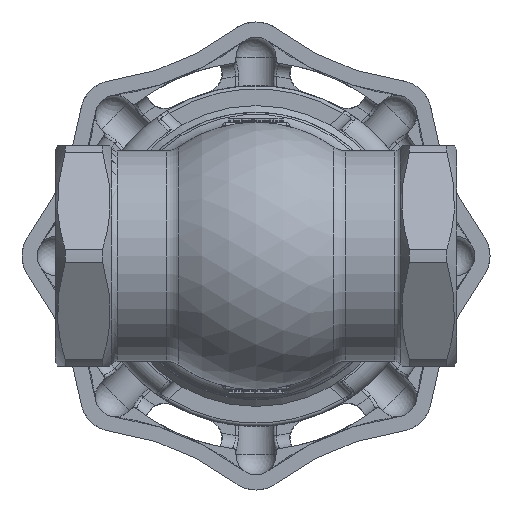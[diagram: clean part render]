
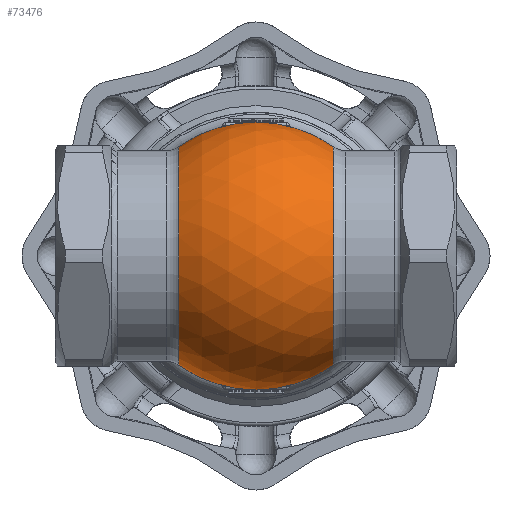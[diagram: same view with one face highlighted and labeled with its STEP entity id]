
A CAD part, front view. The second image highlights one B-rep face of the part: STEP entity #73476.
In plain terms, the highlighted spherical face has radius 20 mm.
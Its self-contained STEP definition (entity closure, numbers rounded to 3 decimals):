
#72012=CARTESIAN_POINT('',(65.232,39.3,-74.128));
#72013=VERTEX_POINT('',#72012);
#72552=CARTESIAN_POINT('',(42.066,39.3,-74.128));
#72553=VERTEX_POINT('',#72552);
#72650=CARTESIAN_POINT('',(42.067,39.3,-41.519));
#72651=VERTEX_POINT('',#72650);
#72652=CARTESIAN_POINT('',(42.066,39.3,-57.823));
#72653=DIRECTION('',(-1.,0.0,0.));
#72654=DIRECTION('',(0.,0.0,-1.));
#72655=AXIS2_PLACEMENT_3D('',#72652,#72653,#72654);
#72656=CIRCLE('',#72655,16.304);
#72657=EDGE_CURVE('',#72553,#72651,#72656,.T.);
#73235=CARTESIAN_POINT('',(65.233,39.3,-41.519));
#73236=VERTEX_POINT('',#73235);
#73384=CARTESIAN_POINT('',(53.649,39.3,-57.823));
#73385=DIRECTION('',(0.0,-1.0,0.0));
#73386=DIRECTION('',(-0.579,0.0,-0.815));
#73387=AXIS2_PLACEMENT_3D('',#73384,#73385,#73386);
#73388=CIRCLE('',#73387,20.0);
#73389=EDGE_CURVE('',#72553,#72013,#73388,.T.);
#73422=CARTESIAN_POINT('',(53.649,39.3,-57.823));
#73423=DIRECTION('',(0.0,1.0,0.0));
#73424=DIRECTION('',(-0.579,0.0,0.815));
#73425=AXIS2_PLACEMENT_3D('',#73422,#73423,#73424);
#73426=CIRCLE('',#73425,20.);
#73427=EDGE_CURVE('',#72651,#73236,#73426,.T.);
#73452=CARTESIAN_POINT('',(65.233,39.3,-57.824));
#73453=DIRECTION('',(1.,0.,0.));
#73454=DIRECTION('',(0.,-0.194,-0.981));
#73455=AXIS2_PLACEMENT_3D('',#73452,#73453,#73454);
#73456=CIRCLE('',#73455,16.304);
#73457=EDGE_CURVE('',#73236,#72013,#73456,.T.);
#73465=CARTESIAN_POINT('',(53.649,39.3,-57.823));
#73466=DIRECTION('',(1.,0.0,0.));
#73467=DIRECTION('',(0.0,-1.0,0.0));
#73468=AXIS2_PLACEMENT_3D('',#73465,#73466,#73467);
#73469=SPHERICAL_SURFACE('',#73468,20.0);
#73470=ORIENTED_EDGE('',*,*,#73427,.F.);
#73471=ORIENTED_EDGE('',*,*,#72657,.F.);
#73472=ORIENTED_EDGE('',*,*,#73389,.T.);
#73473=ORIENTED_EDGE('',*,*,#73457,.F.);
#73474=EDGE_LOOP('',(#73470,#73471,#73472,#73473));
#73475=FACE_OUTER_BOUND('',#73474,.T.);
#73476=ADVANCED_FACE('',(#73475),#73469,.T.);
